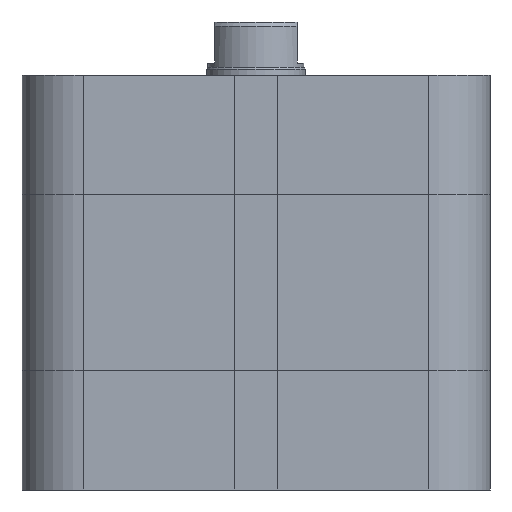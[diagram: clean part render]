
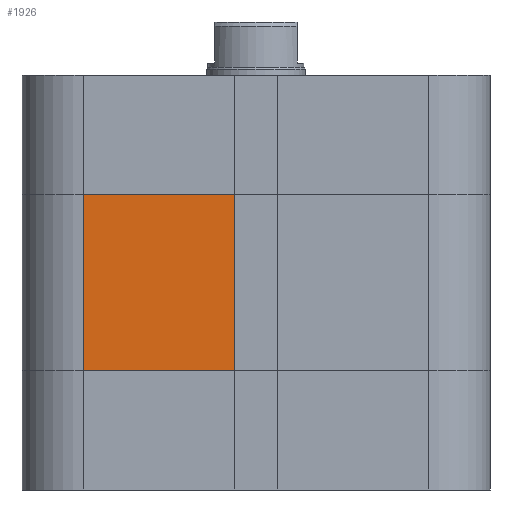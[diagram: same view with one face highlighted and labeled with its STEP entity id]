
A CAD part, front view. The second image highlights one B-rep face of the part: STEP entity #1926.
In plain terms, the highlighted planar face has unit normal (0, -1, 0).
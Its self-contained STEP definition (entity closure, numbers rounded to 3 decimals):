
#1837=CARTESIAN_POINT('',(-21.0,-28.5,14.5));
#1838=VERTEX_POINT('',#1837);
#1846=CARTESIAN_POINT('',(-21.0,-28.5,36.0));
#1847=VERTEX_POINT('',#1846);
#1848=CARTESIAN_POINT('',(-21.0,-28.5,14.5));
#1849=DIRECTION('',(0.0,0.0,1.0));
#1850=VECTOR('',#1849,21.5);
#1851=LINE('',#1848,#1850);
#1852=EDGE_CURVE('',#1838,#1847,#1851,.T.);
#1896=CARTESIAN_POINT('',(-2.6,-28.5,0.0));
#1897=DIRECTION('',(0.0,-1.0,0.0));
#1898=DIRECTION('',(0.0,0.0,-1.0));
#1899=AXIS2_PLACEMENT_3D('',#1896,#1897,#1898);
#1900=PLANE('',#1899);
#1901=CARTESIAN_POINT('',(-2.6,-28.5,14.5));
#1902=VERTEX_POINT('',#1901);
#1903=CARTESIAN_POINT('',(-21.0,-28.5,14.5));
#1904=DIRECTION('',(1.0,0.0,0.0));
#1905=VECTOR('',#1904,18.4);
#1906=LINE('',#1903,#1905);
#1907=EDGE_CURVE('',#1838,#1902,#1906,.T.);
#1908=ORIENTED_EDGE('',*,*,#1907,.T.);
#1909=CARTESIAN_POINT('',(-2.6,-28.5,36.0));
#1910=VERTEX_POINT('',#1909);
#1911=CARTESIAN_POINT('',(-2.6,-28.5,14.5));
#1912=DIRECTION('',(0.0,0.0,1.0));
#1913=VECTOR('',#1912,21.5);
#1914=LINE('',#1911,#1913);
#1915=EDGE_CURVE('',#1902,#1910,#1914,.T.);
#1916=ORIENTED_EDGE('',*,*,#1915,.T.);
#1917=CARTESIAN_POINT('',(-21.0,-28.5,36.0));
#1918=DIRECTION('',(1.0,0.0,0.0));
#1919=VECTOR('',#1918,18.4);
#1920=LINE('',#1917,#1919);
#1921=EDGE_CURVE('',#1847,#1910,#1920,.T.);
#1922=ORIENTED_EDGE('',*,*,#1921,.F.);
#1923=ORIENTED_EDGE('',*,*,#1852,.F.);
#1924=EDGE_LOOP('',(#1908,#1916,#1922,#1923));
#1925=FACE_OUTER_BOUND('',#1924,.T.);
#1926=ADVANCED_FACE('',(#1925),#1900,.T.);
